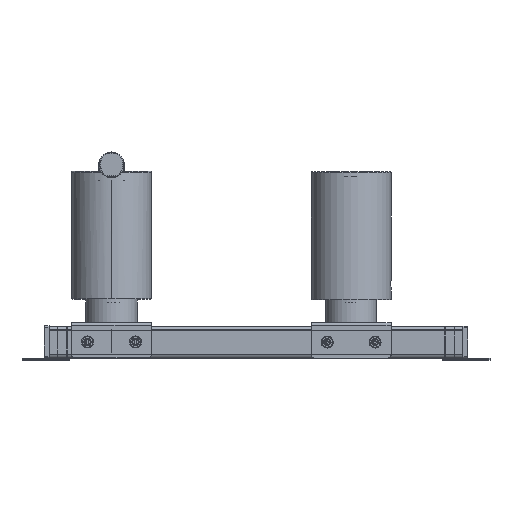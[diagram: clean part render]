
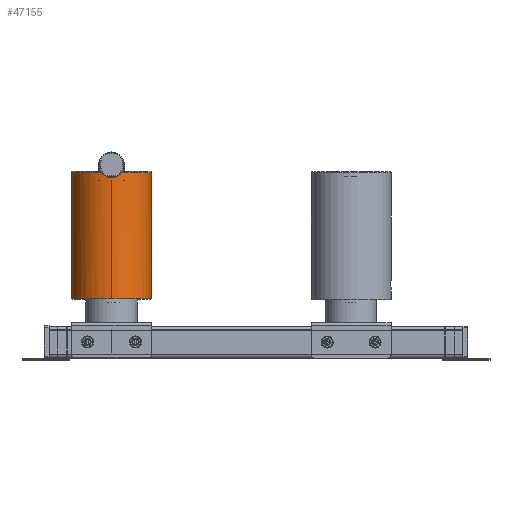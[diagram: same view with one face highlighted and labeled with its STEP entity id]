
A CAD part, top view. The second image highlights one B-rep face of the part: STEP entity #47155.
In plain terms, the highlighted cylindrical face has radius 25 mm (diameter 50 mm), a partial arc.
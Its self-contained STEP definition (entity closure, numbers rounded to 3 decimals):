
#46146=CARTESIAN_POINT('',(0.,0.,0.));
#46147=DIRECTION('',(0.,1.,0.));
#46148=DIRECTION('',(-1.,0.,0.));
#46149=AXIS2_PLACEMENT_3D('',#46146,#46147,#46148);
#46183=DIRECTION('',(0.,1.,0.));
#46184=VECTOR('',#46183,7.4);
#46185=CARTESIAN_POINT('',(25.,0.,0.));
#46186=LINE('',#46185,#46184);
#46196=CARTESIAN_POINT('',(25.,7.4,0.));
#46198=CARTESIAN_POINT('',(25.,12.6,0.));
#46209=DIRECTION('',(0.,1.,0.));
#46210=VECTOR('',#46209,66.4);
#46211=CARTESIAN_POINT('',(25.,12.6,0.));
#46212=LINE('',#46211,#46210);
#46300=CARTESIAN_POINT('',(0.,76.,25.));
#46301=CARTESIAN_POINT('',(0.455,76.,25.));
#46302=CARTESIAN_POINT('',(1.367,76.074,24.976));
#46303=CARTESIAN_POINT('',(2.801,76.458,24.856));
#46304=CARTESIAN_POINT('',(4.117,77.089,24.67));
#46305=CARTESIAN_POINT('',(5.309,77.958,24.438));
#46306=CARTESIAN_POINT('',(5.952,78.634,24.283));
#46307=CARTESIAN_POINT('',(6.245,79.,24.207));
#46309=CARTESIAN_POINT('',(0.,79.,0.));
#46310=DIRECTION('',(0.,1.,0.));
#46311=DIRECTION('',(0.25,0.,0.968));
#46312=AXIS2_PLACEMENT_3D('',#46309,#46310,#46311);
#46314=CARTESIAN_POINT('',(24.864,10.,2.6));
#46315=CARTESIAN_POINT('',(24.864,10.192,2.6));
#46316=CARTESIAN_POINT('',(24.869,10.569,2.559));
#46317=CARTESIAN_POINT('',(24.888,11.137,2.363));
#46318=CARTESIAN_POINT('',(24.917,11.633,2.051));
#46319=CARTESIAN_POINT('',(24.948,12.054,1.629));
#46320=CARTESIAN_POINT('',(24.976,12.357,1.146));
#46321=CARTESIAN_POINT('',(24.995,12.554,
0.594));
#46322=CARTESIAN_POINT('',(25.,12.6,0.203));
#46323=CARTESIAN_POINT('',(25.,12.6,0.));
#46325=CARTESIAN_POINT('',(25.,7.4,0.));
#46326=CARTESIAN_POINT('',(25.,7.4,0.201));
#46327=CARTESIAN_POINT('',(24.995,7.445,
0.589));
#46328=CARTESIAN_POINT('',(24.976,7.641,1.142));
#46329=CARTESIAN_POINT('',(24.948,7.945,1.628));
#46330=CARTESIAN_POINT('',(24.917,8.366,2.051));
#46331=CARTESIAN_POINT('',(24.889,8.861,2.362));
#46332=CARTESIAN_POINT('',(24.869,9.43,2.559));
#46333=CARTESIAN_POINT('',(24.864,9.808,2.6));
#46334=CARTESIAN_POINT('',(24.864,10.,2.6));
#46336=DIRECTION('',(0.,1.,0.));
#46337=VECTOR('',#46336,79.);
#46338=CARTESIAN_POINT('',(-25.,0.,0.));
#46339=LINE('',#46338,#46337);
#46340=CARTESIAN_POINT('',(0.,79.,0.));
#46341=DIRECTION('',(0.,1.,0.));
#46342=DIRECTION('',(-1.,0.,0.));
#46343=AXIS2_PLACEMENT_3D('',#46340,#46341,#46342);
#46345=CARTESIAN_POINT('',(-6.245,79.,
24.207));
#46346=CARTESIAN_POINT('',(-5.879,78.543,
24.302));
#46347=CARTESIAN_POINT('',(-5.062,77.718,
24.496));
#46348=CARTESIAN_POINT('',(-3.477,76.714,
24.777));
#46349=CARTESIAN_POINT('',(-1.732,76.123,
24.96));
#46350=CARTESIAN_POINT('',(-0.581,76.,25.));
#46351=CARTESIAN_POINT('',(0.,76.,25.));
#46881=CARTESIAN_POINT('',(25.,0.,0.));
#46882=CARTESIAN_POINT('',(-25.,0.,0.));
#46883=VERTEX_POINT('',#46881);
#46884=VERTEX_POINT('',#46882);
#46905=CARTESIAN_POINT('',(-25.,79.,0.));
#46906=VERTEX_POINT('',#46905);
#46907=VERTEX_POINT('',#46198);
#46909=VERTEX_POINT('',#46196);
#46910=VERTEX_POINT('',#46314);
#46913=CARTESIAN_POINT('',(25.,79.,0.));
#46914=VERTEX_POINT('',#46913);
#46946=VERTEX_POINT('',#46300);
#46947=VERTEX_POINT('',#46307);
#46948=VERTEX_POINT('',#46345);
#47134=CARTESIAN_POINT('',(0.,0.,0.));
#47135=DIRECTION('',(0.,1.,0.));
#47136=DIRECTION('',(1.,0.,0.));
#47137=AXIS2_PLACEMENT_3D('',#47134,#47135,#47136);
#47138=CYLINDRICAL_SURFACE('',#47137,25.);
#47139=ORIENTED_EDGE('',*,*,#47063,.T.);
#47141=ORIENTED_EDGE('',*,*,#47140,.T.);
#47142=ORIENTED_EDGE('',*,*,#47034,.F.);
#47144=ORIENTED_EDGE('',*,*,#47143,.F.);
#47146=ORIENTED_EDGE('',*,*,#47145,.F.);
#47147=ORIENTED_EDGE('',*,*,#47028,.F.);
#47148=ORIENTED_EDGE('',*,*,#47003,.F.);
#47149=ORIENTED_EDGE('',*,*,#47025,.T.);
#47151=ORIENTED_EDGE('',*,*,#47150,.T.);
#47152=ORIENTED_EDGE('',*,*,#47116,.T.);
#47153=EDGE_LOOP('',(#47139,#47141,#47142,#47144,#47146,#47147,#47148,#47149,
#47151,#47152));
#47154=FACE_OUTER_BOUND('',#47153,.F.);
#47155=ADVANCED_FACE('',(#47154),#47138,.T.);
#46150=CIRCLE('',#46149,25.);
#46308=B_SPLINE_CURVE_WITH_KNOTS('',3,(#46300,#46301,#46302,#46303,#46304,
#46305,#46306,#46307),.UNSPECIFIED.,.F.,.F.,(4,1,1,1,1,4),(0.,0.2,0.4,
0.6,0.8,1.),.UNSPECIFIED.);
#46313=CIRCLE('',#46312,25.);
#46324=B_SPLINE_CURVE_WITH_KNOTS('',3,(#46314,#46315,#46316,#46317,#46318,
#46319,#46320,#46321,#46322,#46323),.UNSPECIFIED.,.F.,.F.,(4,1,1,1,1,1,1,4),(
0.,0.143,0.286,0.429,0.571,
0.714,0.857,1.),.UNSPECIFIED.);
#46335=B_SPLINE_CURVE_WITH_KNOTS('',3,(#46325,#46326,#46327,#46328,#46329,
#46330,#46331,#46332,#46333,#46334),.UNSPECIFIED.,.F.,.F.,(4,1,1,1,1,1,1,4),(
0.,0.143,0.286,0.429,0.571,
0.714,0.857,1.),.UNSPECIFIED.);
#46344=CIRCLE('',#46343,25.);
#46352=B_SPLINE_CURVE_WITH_KNOTS('',3,(#46345,#46346,#46347,#46348,#46349,
#46350,#46351),.UNSPECIFIED.,.F.,.F.,(4,1,1,1,4),(0.,0.25,0.5,0.75,
1.),.UNSPECIFIED.);
#47003=EDGE_CURVE('',#46884,#46883,#46150,.T.);
#47025=EDGE_CURVE('',#46884,#46906,#46339,.T.);
#47028=EDGE_CURVE('',#46883,#46909,#46186,.T.);
#47034=EDGE_CURVE('',#46907,#46914,#46212,.T.);
#47063=EDGE_CURVE('',#46946,#46947,#46308,.T.);
#47116=EDGE_CURVE('',#46948,#46946,#46352,.T.);
#47140=EDGE_CURVE('',#46947,#46914,#46313,.T.);
#47143=EDGE_CURVE('',#46910,#46907,#46324,.T.);
#47145=EDGE_CURVE('',#46909,#46910,#46335,.T.);
#47150=EDGE_CURVE('',#46906,#46948,#46344,.T.);
